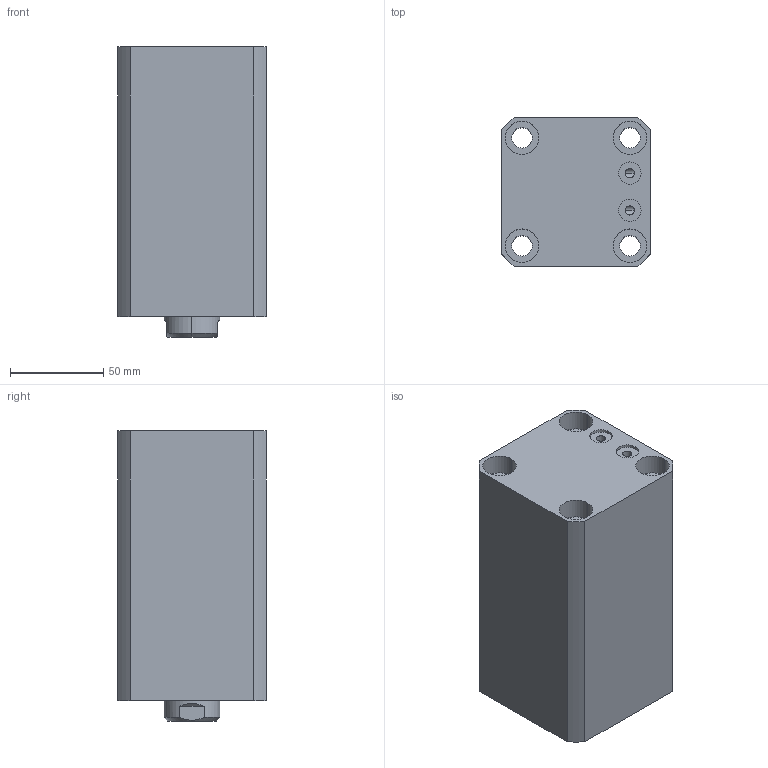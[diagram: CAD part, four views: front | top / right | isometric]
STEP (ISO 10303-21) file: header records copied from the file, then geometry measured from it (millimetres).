
FILE_DESCRIPTION (( 'STEP AP203' ), '1' );
FILE_NAME ('CHTB-SDMA50-85N.STEP', '2018-05-19T06:56:44', ( '' ), ( '' ), 'SwSTEP 2.0', 'SolidWorks 2015', '' );
FILE_SCHEMA (( 'CONFIG_CONTROL_DESIGN' ));
Length unit declared in the file: millimetre
Products named in the file (5): 活塞杆SDMB50-85N; 掛极SDMB50-85N; M6; CHTM-SDMA50QG; CHTB-SDMA50-85N
Assembly tree (5 placements, depth 2):
  CHTB-SDMA50-85N
    掛极SDMB50-85N
    活塞杆SDMB50-85N
    CHTM-SDMA50QG
    M6  x2
Bounding box: 80 x 80 x 156 mm (x, y, z)
Volume: 743255.3 mm3; surface area: 137272.4 mm2
Topology: 5 solids, 5 shells, 263 faces, 693 edges, 458 vertices
Faces by surface type: cylinder 135, plane 55, cone 31, bspline 26, torus 16
Entity records: 13963 total; most frequent: CARTESIAN_POINT 8102, ORIENTED_EDGE 1188, DIRECTION 1016, EDGE_CURVE 594, AXIS2_PLACEMENT_3D 416, VERTEX_POINT 397, EDGE_LOOP 269, ADVANCED_FACE 228
